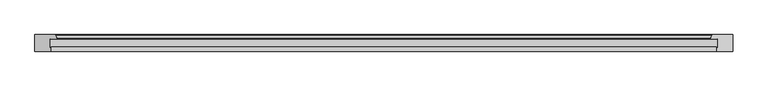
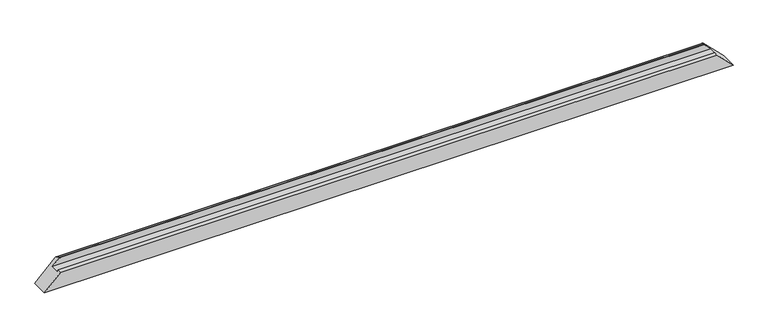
"""IFC4 building model written with IfcOpenShell, lengths in millimetres: proxy geometry, Weiku - Montante - Caixilho 02.2.01.005 : Weiku - Montante - Caixilho 02.2.01.005."""

import ifcopenshell
import ifcopenshell.guid

model = None  # the IFC model being written
_history = None  # IfcOwnerHistory: only IFC2X3 demands one
_inside = {}  # id of a spatial element -> (the spatial element, [elements in it])
_under = {}  # id of a project, library or spatial element -> (it, [spatial elements below it])
_declared = {}  # id of a project -> (the project, [libraries it declares])
_typed = {}  # id of a type object -> (the type object, [elements of that type])
_made_of = {}  # id of a material, layer set ... -> (it, [elements and type objects made of it])


def new_model(schema):
    """Start an empty IFC model of exactly this schema.

    Asked for "IFC4X3", IfcOpenShell would pick the latest addendum, in which some entities
    have other attributes; the version numbers below select the first issue.
    IFC2X3 requires an IfcOwnerHistory on every rooted entity: one is made here for all.
    """
    global model, _history
    if schema == "IFC4X3":
        model = ifcopenshell.file(schema_version=(4, 3, 0, 0))
    else:
        model = ifcopenshell.file(schema=schema)
    _inside.clear()
    _under.clear()
    _declared.clear()
    _typed.clear()
    _made_of.clear()
    _history = None
    if model.schema == "IFC2X3":
        org = make("IfcOrganization", Name="unknown")
        user = make(
            "IfcPersonAndOrganization",
            ThePerson=make("IfcPerson", FamilyName="unknown"),
            TheOrganization=org,
        )
        app = make(
            "IfcApplication",
            ApplicationDeveloper=org,
            Version="unknown",
            ApplicationFullName="unknown",
            ApplicationIdentifier="unknown",
        )
        _history = make(
            "IfcOwnerHistory",
            OwningUser=user,
            OwningApplication=app,
            ChangeAction="ADDED",
            CreationDate=0,
        )
    return model


def make(cls, **values):
    """One entity of the class cls with the attributes given. An attribute that is None is left unset."""
    return model.create_entity(
        cls, **{name: value for name, value in values.items() if value is not None}
    )


def rooted(cls, **values):
    """An entity with a GlobalId (a new one), such as an element, a storey or a relation."""
    return make(cls, GlobalId=ifcopenshell.guid.new(), OwnerHistory=_history, **values)


def si_unit(unit_type, name, prefix=None):
    """IfcSIUnit, for example si_unit("LENGTHUNIT", "METRE", prefix="MILLI")."""
    return make("IfcSIUnit", UnitType=unit_type, Prefix=prefix, Name=name)


def assignment(units):
    """IfcUnitAssignment: the units of a project."""
    return None if units is None else make("IfcUnitAssignment", Units=units)


def point(xyz):
    """IfcCartesianPoint."""
    return None if xyz is None else make("IfcCartesianPoint", Coordinates=xyz)


def direction(xyz):
    """IfcDirection."""
    return None if xyz is None else make("IfcDirection", DirectionRatios=xyz)


def frame(location, z_axis=None, x_axis=None):
    """IfcAxis2Placement3D, a coordinate frame: its origin and axes. An axis left out is left unset."""
    return make(
        "IfcAxis2Placement3D",
        Location=point(location),
        Axis=direction(z_axis),
        RefDirection=direction(x_axis),
    )


def origin():
    """The frame at (0, 0, 0) with its axes left unset."""
    return frame((0.0, 0.0, 0.0))


def place(relative_to, where):
    """IfcLocalPlacement: puts the frame where relative to a parent placement (None: the world)."""
    return make(
        "IfcLocalPlacement", PlacementRelTo=relative_to, RelativePlacement=where
    )


def context(
    kind, dimensions, precision=None, world=None, true_north=None, identifier=None
):
    """IfcGeometricRepresentationContext, for example the 3D "Model" context."""
    return make(
        "IfcGeometricRepresentationContext",
        ContextIdentifier=identifier,
        ContextType=kind,
        CoordinateSpaceDimension=dimensions,
        Precision=precision,
        WorldCoordinateSystem=world,
        TrueNorth=true_north,
    )


def project(units=None, contexts=None):
    """IfcProject with its units and contexts."""
    return rooted(
        "IfcProject",
        Name="project",
        RepresentationContexts=contexts,
        UnitsInContext=assignment(units),
    )


def spatial(cls, under=None, at=None, **own):
    """A site, building, storey or space (cls), placed at a placement, below another one or the project."""
    s = rooted(cls, ObjectPlacement=at, **own)
    if under is not None:
        _under.setdefault(under.id(), (under, []))[1].append(s)
    return s


def ellipse_curve(where, semi_axis1, semi_axis2):
    """IfcEllipse in the frame where."""
    return make(
        "IfcEllipse", Position=where, SemiAxis1=semi_axis1, SemiAxis2=semi_axis2
    )


def shape(context_of_items, identifier, shape_type, items):
    """IfcShapeRepresentation: the items that make up one representation, for example the "Body"."""
    return make(
        "IfcShapeRepresentation",
        ContextOfItems=context_of_items,
        RepresentationIdentifier=identifier,
        RepresentationType=shape_type,
        Items=items,
    )


def source(mapping_origin, context_of_items, identifier, shape_type, items):
    """IfcRepresentationMap: a shape defined once, which mapped items show again and again."""
    return make(
        "IfcRepresentationMap",
        MappingOrigin=mapping_origin,
        MappedRepresentation=shape(context_of_items, identifier, shape_type, items),
    )


def transform(
    local_origin,
    x_axis=None,
    y_axis=None,
    z_axis=None,
    scale=None,
    scale2=None,
    scale3=None,
    uniform=True,
):
    """IfcCartesianTransformationOperator3D, or its non-uniform kind. x_axis, y_axis, z_axis: its Axis1, 2, 3."""
    if uniform:
        return make(
            "IfcCartesianTransformationOperator3D",
            Axis1=direction(x_axis),
            Axis2=direction(y_axis),
            LocalOrigin=point(local_origin),
            Scale=scale,
            Axis3=direction(z_axis),
        )
    return make(
        "IfcCartesianTransformationOperator3DnonUniform",
        Axis1=direction(x_axis),
        Axis2=direction(y_axis),
        LocalOrigin=point(local_origin),
        Scale=scale,
        Axis3=direction(z_axis),
        Scale2=scale2,
        Scale3=scale3,
    )


def mapped(mapping_source, mapping_target):
    """IfcMappedItem: shows the shape of a source again, moved by a transform."""
    return make(
        "IfcMappedItem", MappingSource=mapping_source, MappingTarget=mapping_target
    )


def made_of(thing, what):
    """Note that an element or type object is made of a material, layer set ...; save() writes the relation."""
    if what is not None:
        _made_of.setdefault(what.id(), (what, []))[1].append(thing)
    return thing


def element(
    cls,
    number,
    at=None,
    inside=None,
    cuts=None,
    type_object=None,
    material=None,
    context=None,
    identifier="Body",
    shape_type=None,
    held_by="IfcProductDefinitionShape",
    body=None,
    shapes=None,
    **own,
):
    """One element of the class cls, such as IfcWall. Its Tag is "e" and its number.

    at: its placement. inside: the storey or other place that contains it. cuts: it is an
    opening in that element (IfcRelVoidsElement). A single representation is given by context,
    identifier, shape_type and body (its items); several are given by shapes. held_by: the class
    of the entity that holds the representations. save() writes the other relations.
    """
    e = rooted(cls, Tag="e%d" % number, ObjectPlacement=at, **own)
    if body is not None:
        shapes = [shape(context, identifier, shape_type, body)]
    if shapes is not None:
        e.Representation = make(held_by, Representations=shapes)
    if inside is not None:
        _inside.setdefault(inside.id(), (inside, []))[1].append(e)
    if cuts is not None:
        rooted(
            "IfcRelVoidsElement", RelatingBuildingElement=cuts, RelatedOpeningElement=e
        )
    if type_object is not None:
        _typed.setdefault(type_object.id(), (type_object, []))[1].append(e)
    return made_of(e, material)


def aggregate(whole, parts):
    """IfcRelAggregates: a whole, such as a stair, and the parts it consists of."""
    return rooted("IfcRelAggregates", RelatingObject=whole, RelatedObjects=parts)


def save(model, path):
    """Write the relations noted so far, then the file.

    IfcRelAggregates (storeys below a building ...), IfcRelContainedInSpatialStructure (elements
    in a storey), IfcRelDefinesByType, IfcRelAssociatesMaterial and IfcRelDeclares: one each for
    every whole, place, type object, material and project.
    """
    for whole, parts in _under.values():
        aggregate(whole, parts)
    for where, things in _inside.values():
        rooted(
            "IfcRelContainedInSpatialStructure",
            RelatedElements=things,
            RelatingStructure=where,
        )
    for kind, things in _typed.values():
        rooted("IfcRelDefinesByType", RelatedObjects=things, RelatingType=kind)
    for what, things in _made_of.values():
        rooted("IfcRelAssociatesMaterial", RelatedObjects=things, RelatingMaterial=what)
    for by, libraries in _declared.values():
        rooted("IfcRelDeclares", RelatingContext=by, RelatedDefinitions=libraries)
    model.write(path)


def plane_surface(at):
    """IfcPlane: the flat surface through the origin of the frame at, square to its z axis."""
    return make("IfcPlane", Position=at)


def cylinder_surface(at, radius):
    """IfcCylindricalSurface: all points at the distance radius from the z axis of the frame at."""
    return make("IfcCylindricalSurface", Position=at, Radius=radius)


def advanced_brep(points, edges, surfaces, faces):
    """IfcAdvancedBrep: a solid bounded by faces that lie on surfaces and meet in shared edges.

    An edge is (start, end): straight between two places in points (the first is 0);
    or (start, end, curve); or (start, end, curve, False) where it runs against its curve.
    A face is (place in surfaces, loops), or (place, loops, False) where it looks against
    its surface's normal. A loop lists edges by number (the first is 1), with a minus sign
    where the edge is run from its end to its start. The first loop is the outer one.
    """
    corners = [point(p) for p in points]
    vertices = [make("IfcVertexPoint", VertexGeometry=c) for c in corners]
    made = []
    for start, end, *more in edges:
        made.append(
            make(
                "IfcEdgeCurve",
                EdgeStart=vertices[start],
                EdgeEnd=vertices[end],
                EdgeGeometry=more[0] if more else make("IfcPolyline", Points=[corners[start], corners[end]]),
                SameSense=more[1] if len(more) > 1 else True,
            )
        )
    hull = []
    for where, loops, *sense in faces:
        bounds = []
        for j, loop in enumerate(loops):
            ring = [make("IfcOrientedEdge", EdgeElement=made[abs(k) - 1], Orientation=k > 0) for k in loop]
            bounds.append(
                make(
                    "IfcFaceOuterBound" if j == 0 else "IfcFaceBound",
                    Bound=make("IfcEdgeLoop", EdgeList=ring),
                    Orientation=True,
                )
            )
        hull.append(make("IfcAdvancedFace", Bounds=bounds, FaceSurface=surfaces[where], SameSense=sense[0] if sense else True))
    return make("IfcAdvancedBrep", Outer=make("IfcClosedShell", CfsFaces=hull))


def generic_models_a527a407(model_context):
    return source(origin(), model_context, "Body", "AdvancedBrep", [
        advanced_brep(
        [(-1001.5, -12.5, 46.0), (1001.5, -12.5, 46.0), (981.3909676, -12.5, 66.1090324), (-981.3909676, -12.5, 66.1090324), (-1001.5, -37.8314286, 46.0), (1001.5, -37.8314286, 46.0), (-998.5, -37.027581, 49.0), (998.5, -37.027581, 49.0), (-998.5, -50.0, 49.0), (998.5, -50.0, 49.0), (1047.5, -50.0, 0.0), (-1047.5, -50.0, 0.0), (-1047.5, 0.0, 0.0), (1047.5, 0.0, 0.0), (-985.9997332, 0.0, 61.5002668), (985.9997332, 0.0, 61.5002668), (-980.618227, -11.4929448, 66.881773), (980.618227, -11.4929448, 66.881773), (983.1019557, -2.2235429, 64.3980443), (-983.1019557, -2.2235429, 64.3980443)],
        [
            (0, 1),
            (1, 2),
            (2, 3),
            (3, 0),
            (4, 5),
            (5, 1),
            (0, 4),
            (6, 7),
            (7, 5),
            (4, 6),
            (8, 9),
            (9, 7),
            (6, 8),
            (10, 9),
            (8, 11),
            (11, 10),
            (11, 12),
            (12, 13),
            (13, 10),
            (12, 14),
            (14, 15),
            (15, 13),
            (16, 17),
            (17, 18),
            (18, 19),
            (19, 16),
            (3, 16, ellipse_curve(frame((-981.3909676, -11.7, 66.1090324), z_axis=(-0.707106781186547, 0.0, 0.707106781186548), x_axis=(-0.7071067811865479, 0.0, -0.707106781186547)), 1.1313708, 0.8)),
            (19, 14, ellipse_curve(frame((-985.9997332, -3.0, 61.5002668), z_axis=(-0.707106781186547, 0.0, 0.707106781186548), x_axis=(-0.7071067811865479, 0.0, -0.707106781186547)), 4.2426407, 3.0)),
            (15, 18, ellipse_curve(frame((985.9997332, -3.0, 61.5002668), z_axis=(0.7071067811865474, 0.0, 0.7071067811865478), x_axis=(-0.7071067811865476, 0.0, 0.7071067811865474)), 4.2426407, 3.0)),
            (17, 2, ellipse_curve(frame((981.3909676, -11.7, 66.1090324), z_axis=(0.7071067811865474, 0.0, 0.7071067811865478), x_axis=(-0.7071067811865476, 0.0, 0.7071067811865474)), 1.1313708, 0.8)),
        ],
        [
            plane_surface(frame((-1047.5, -12.5, 66.1090324), z_axis=(0.0, -1.0, 0.0), x_axis=(1.0, 0.0, 0.0))),
            plane_surface(frame((-1047.5, -12.5, 46.0), z_axis=(0.0, 0.0, 1.0), x_axis=(1.0, 0.0, 0.0))),
            plane_surface(frame((-1047.5, -37.8314286, 46.0), z_axis=(0.0, 0.9659258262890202, -0.2588190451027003), x_axis=(1.0, 0.0, 0.0))),
            plane_surface(frame((-1047.5, -37.027581, 49.0), z_axis=(0.0, 0.0, 1.0), x_axis=(1.0, 0.0, 0.0))),
            plane_surface(frame((-1047.5, -50.0, 49.0), z_axis=(0.0, -1.0, 0.0), x_axis=(1.0, 0.0, 0.0))),
            plane_surface(frame((-1047.5, -50.0, 0.0), z_axis=(0.0, 0.0, -1.0), x_axis=(1.0, 0.0, 0.0))),
            plane_surface(frame((-1047.5, 0.0, 0.0), z_axis=(0.0, 1.0, 0.0), x_axis=(1.0, 0.0, 0.0))),
            plane_surface(frame((-1047.5, -2.2235429, 64.3980443), z_axis=(0.0, 0.2588190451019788, 0.9659258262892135), x_axis=(1.0, 0.0, 0.0))),
            plane_surface(frame((-1117.5, 15.0, -70.0), z_axis=(-0.707106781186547, 0.0, 0.707106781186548), x_axis=(0.0, -1.0, 0.0))),
            plane_surface(frame((977.5, 15.0, 70.0), z_axis=(0.7071067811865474, 0.0, 0.7071067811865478), x_axis=(0.0, -1.0, 0.0))),
            cylinder_surface(frame((-1047.5, -11.7, 66.1090324), z_axis=(-1.0, 0.0, 0.0), x_axis=(0.0, -1.0, 0.0)), 0.8),
            cylinder_surface(frame((-1047.5, -3.0, 61.5002668), z_axis=(-1.0, 0.0, 0.0), x_axis=(0.0, -1.0, 0.0)), 3.0),
        ],
        [
            (0, [[1, 2, 3, 4]]),
            (1, [[5, 6, -1, 7]]),
            (2, [[8, 9, -5, 10]]),
            (3, [[11, 12, -8, 13]]),
            (4, [[14, -11, 15, 16]]),
            (5, [[17, 18, 19, -16]]),
            (6, [[20, 21, 22, -18]]),
            (7, [[23, 24, 25, 26]]),
            (8, [[27, -26, 28, -20, -17, -15, -13, -10, -7, -4]]),
            (9, [[-6, -9, -12, -14, -19, -22, 29, -24, 30, -2]]),
            (10, [[-3, -30, -23, -27]]),
            (11, [[-25, -29, -21, -28]]),
        ],
    ),
    ])


if __name__ == "__main__":
    model = new_model("IFC4")
    model_context = context("Model", 3, world=origin())
    ifc_project = project(units=[si_unit("LENGTHUNIT", "METRE", prefix="MILLI")], contexts=[model_context])
    site = spatial("IfcSite", under=ifc_project)
    building = spatial("IfcBuilding", under=site)
    placement = place(None, origin())
    generic_models_shape = generic_models_a527a407(model_context)
    element("IfcBuildingElementProxy", 1, Name="Weiku - Montante - Caixilho 02.2.01.005 : Weiku - Montante - Caixilho 02.2.01.005", ObjectType="Weiku - Montante - Caixilho 02.2.01.005 : Weiku - Montante - Caixilho 02.2.01.005", at=placement, inside=building, context=model_context, shape_type="MappedRepresentation", body=[
        mapped(generic_models_shape, transform((0.0, 0.0, 0.0), x_axis=(1.0, 0.0, 0.0), y_axis=(0.0, 1.0, 0.0), z_axis=(0.0, 0.0, 1.0))),
    ])
    save(model, "model.ifc")
